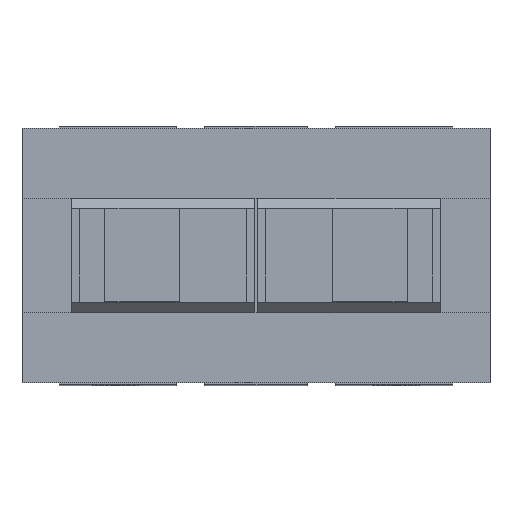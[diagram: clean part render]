
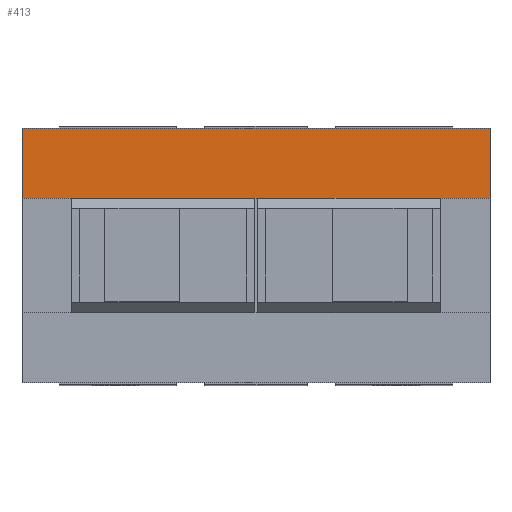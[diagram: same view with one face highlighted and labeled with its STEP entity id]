
A CAD part, top view. The second image highlights one B-rep face of the part: STEP entity #413.
In plain terms, the highlighted planar face has unit normal (0, 0, 1).
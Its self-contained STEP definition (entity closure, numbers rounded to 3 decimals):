
#413 = ADVANCED_FACE( '', ( #899 ), #900, .F. );
#899 = FACE_OUTER_BOUND( '', #1463, .T. );
#900 = PLANE( '', #1464 );
#1463 = EDGE_LOOP( '', ( #2447, #2448, #2449, #2450 ) );
#1464 = AXIS2_PLACEMENT_3D( '', #2451, #2452, #2453 );
#2447 = ORIENTED_EDGE( '', *, *, #3517, .T. );
#2448 = ORIENTED_EDGE( '', *, *, #3395, .F. );
#2449 = ORIENTED_EDGE( '', *, *, #3518, .F. );
#2450 = ORIENTED_EDGE( '', *, *, #3506, .T. );
#2451 = CARTESIAN_POINT( '', ( 25., 13.6, 62.3 ) );
#2452 = DIRECTION( '', ( 0., 0., -1. ) );
#2453 = DIRECTION( '', ( -1., 0., 0. ) );
#3395 = EDGE_CURVE( '', #4112, #4114, #4115, .T. );
#3506 = EDGE_CURVE( '', #4284, #4282, #4285, .T. );
#3517 = EDGE_CURVE( '', #4282, #4114, #4298, .T. );
#3518 = EDGE_CURVE( '', #4284, #4112, #4299, .T. );
#4112 = VERTEX_POINT( '', #5073 );
#4114 = VERTEX_POINT( '', #5076 );
#4115 = LINE( '', #5077, #5078 );
#4282 = VERTEX_POINT( '', #5310 );
#4284 = VERTEX_POINT( '', #5313 );
#4285 = LINE( '', #5314, #5315 );
#4298 = LINE( '', #5334, #5335 );
#4299 = LINE( '', #5336, #5337 );
#5073 = CARTESIAN_POINT( '', ( 25., 6.1, 62.3 ) );
#5076 = CARTESIAN_POINT( '', ( -25., 6.1, 62.3 ) );
#5077 = CARTESIAN_POINT( '', ( 25., 6.1, 62.3 ) );
#5078 = VECTOR( '', #5893, 1000. );
#5310 = CARTESIAN_POINT( '', ( -25., 13.6, 62.3 ) );
#5313 = CARTESIAN_POINT( '', ( 25., 13.6, 62.3 ) );
#5314 = CARTESIAN_POINT( '', ( 25., 13.6, 62.3 ) );
#5315 = VECTOR( '', #6011, 1000. );
#5334 = CARTESIAN_POINT( '', ( -25., 13.6, 62.3 ) );
#5335 = VECTOR( '', #6021, 1000. );
#5336 = CARTESIAN_POINT( '', ( 25., 13.6, 62.3 ) );
#5337 = VECTOR( '', #6022, 1000. );
#5893 = DIRECTION( '', ( -1., 0., 0. ) );
#6011 = DIRECTION( '', ( -1., 0., 0. ) );
#6021 = DIRECTION( '', ( 0., -1., 0. ) );
#6022 = DIRECTION( '', ( 0., -1., 0. ) );
